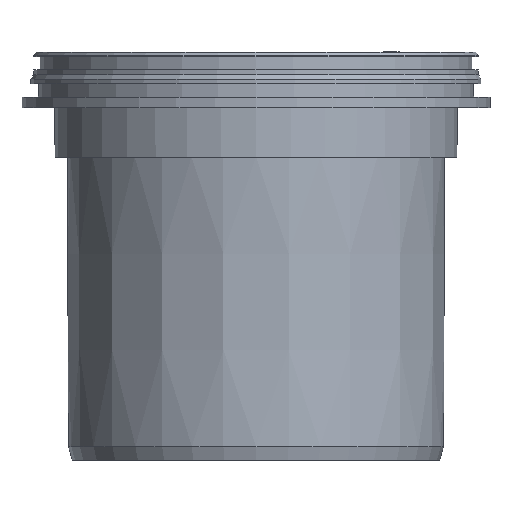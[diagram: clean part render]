
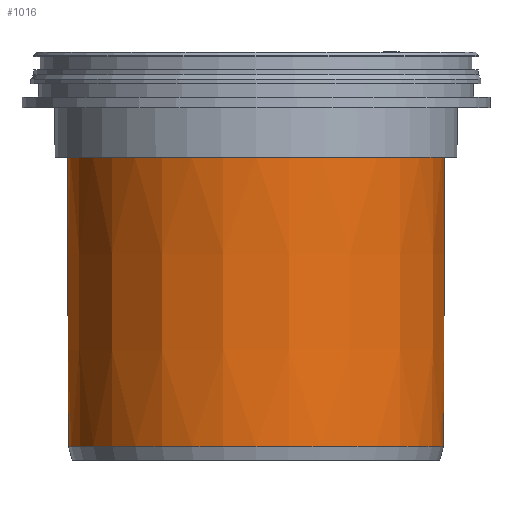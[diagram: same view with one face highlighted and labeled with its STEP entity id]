
A CAD part, left-side view. The second image highlights one B-rep face of the part: STEP entity #1016.
In plain terms, the highlighted conical face has half-angle 0.2 degrees and reference radius 62.549 mm.
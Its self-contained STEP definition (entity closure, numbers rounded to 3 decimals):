
#99=CONICAL_SURFACE('',#1104,62.549,0.2);
#166=FACE_BOUND('',#292,.T.);
#209=FACE_OUTER_BOUND('',#291,.T.);
#291=EDGE_LOOP('',(#694));
#292=EDGE_LOOP('',(#695));
#393=CIRCLE('',#1101,62.853);
#395=CIRCLE('',#1105,62.516);
#462=VERTEX_POINT('',#1559);
#464=VERTEX_POINT('',#1565);
#558=EDGE_CURVE('',#462,#462,#393,.T.);
#560=EDGE_CURVE('',#464,#464,#395,.T.);
#694=ORIENTED_EDGE('',*,*,#560,.T.);
#695=ORIENTED_EDGE('',*,*,#558,.T.);
#1016=ADVANCED_FACE('',(#209,#166),#99,.T.);
#1101=AXIS2_PLACEMENT_3D('',#1560,#1262,#1263);
#1104=AXIS2_PLACEMENT_3D('',#1564,#1268,#1269);
#1105=AXIS2_PLACEMENT_3D('',#1566,#1270,#1271);
#1262=DIRECTION('center_axis',(0.,0.,
-1.));
#1263=DIRECTION('ref_axis',(0.294,0.956,0.));
#1268=DIRECTION('center_axis',(0.,0.,
1.));
#1269=DIRECTION('ref_axis',(0.294,0.956,0.));
#1270=DIRECTION('center_axis',(0.,0.,1.));
#1271=DIRECTION('ref_axis',(0.,-1.,0.));
#1559=CARTESIAN_POINT('',(0.,-62.853,-35.));
#1560=CARTESIAN_POINT('Origin',(0.,0.,
-35.));
#1564=CARTESIAN_POINT('Origin',(0.,0.,
-121.85));
#1565=CARTESIAN_POINT('',(0.,-62.516,-131.5));
#1566=CARTESIAN_POINT('Origin',(0.,0.,
-131.5));
